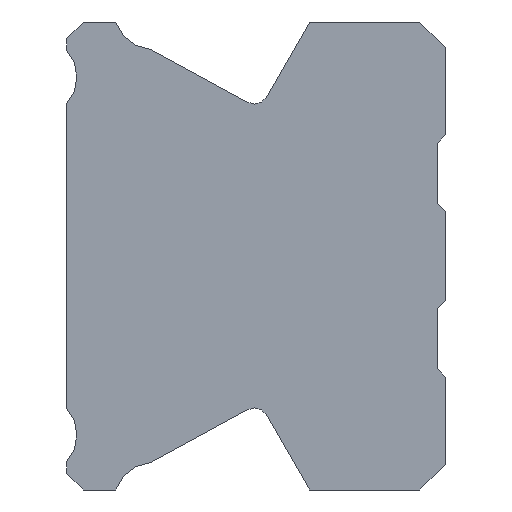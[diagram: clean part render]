
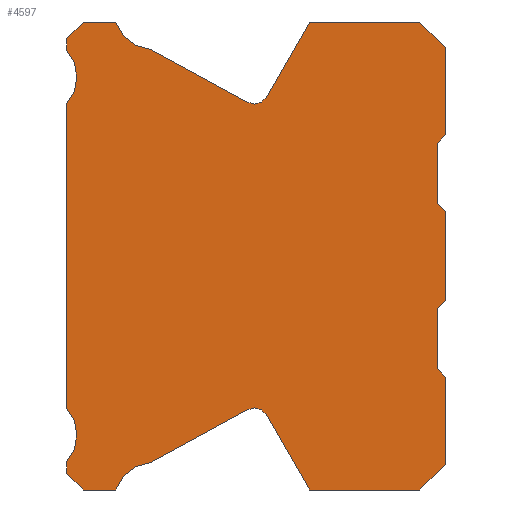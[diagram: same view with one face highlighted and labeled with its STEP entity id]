
A CAD part, left-side view. The second image highlights one B-rep face of the part: STEP entity #4597.
In plain terms, the highlighted planar face has unit normal (-1, 0, 0).
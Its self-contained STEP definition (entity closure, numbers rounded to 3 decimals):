
#177=CIRCLE('',#5070,2.89);
#179=CIRCLE('',#5074,1.);
#258=CIRCLE('',#5167,1.);
#260=CIRCLE('',#5171,2.89);
#262=CIRCLE('',#5177,2.89);
#302=CIRCLE('',#5219,2.89);
#535=LINE('',#7829,#765);
#537=LINE('',#7835,#767);
#539=LINE('',#7841,#769);
#541=LINE('',#7845,#771);
#546=LINE('',#7860,#776);
#550=LINE('',#7872,#780);
#553=LINE('',#7878,#783);
#556=LINE('',#7884,#786);
#559=LINE('',#7890,#789);
#562=LINE('',#7896,#792);
#566=LINE('',#7940,#796);
#568=LINE('',#7948,#798);
#571=LINE('',#7990,#801);
#574=LINE('',#7996,#804);
#577=LINE('',#8002,#807);
#580=LINE('',#8008,#810);
#583=LINE('',#8014,#813);
#587=LINE('',#8026,#817);
#591=LINE('',#8038,#821);
#594=LINE('',#8044,#824);
#597=LINE('',#8050,#827);
#601=LINE('',#8138,#831);
#605=LINE('',#8150,#835);
#608=LINE('',#8156,#838);
#765=VECTOR('',#6250,1000.);
#767=VECTOR('',#6256,1000.);
#769=VECTOR('',#6262,1000.);
#771=VECTOR('',#6266,1000.);
#776=VECTOR('',#6279,1000.);
#780=VECTOR('',#6291,1000.);
#783=VECTOR('',#6296,1000.);
#786=VECTOR('',#6301,1000.);
#789=VECTOR('',#6306,1000.);
#792=VECTOR('',#6311,1000.);
#796=VECTOR('',#6391,1000.);
#798=VECTOR('',#6405,1000.);
#801=VECTOR('',#6482,1000.);
#804=VECTOR('',#6487,1000.);
#807=VECTOR('',#6492,1000.);
#810=VECTOR('',#6497,1000.);
#813=VECTOR('',#6502,1000.);
#817=VECTOR('',#6514,1000.);
#821=VECTOR('',#6526,1000.);
#824=VECTOR('',#6531,1000.);
#827=VECTOR('',#6536,1000.);
#831=VECTOR('',#6624,1000.);
#835=VECTOR('',#6636,1000.);
#838=VECTOR('',#6641,1000.);
#1636=ORIENTED_EDGE('',*,*,#2548,.F.);
#1637=ORIENTED_EDGE('',*,*,#2742,.F.);
#1638=ORIENTED_EDGE('',*,*,#2739,.F.);
#1639=ORIENTED_EDGE('',*,*,#2736,.T.);
#1640=ORIENTED_EDGE('',*,*,#2733,.F.);
#1641=ORIENTED_EDGE('',*,*,#2692,.T.);
#1642=ORIENTED_EDGE('',*,*,#2689,.F.);
#1643=ORIENTED_EDGE('',*,*,#2686,.F.);
#1644=ORIENTED_EDGE('',*,*,#2683,.F.);
#1645=ORIENTED_EDGE('',*,*,#2680,.T.);
#1646=ORIENTED_EDGE('',*,*,#2677,.F.);
#1647=ORIENTED_EDGE('',*,*,#2674,.T.);
#1648=ORIENTED_EDGE('',*,*,#2671,.F.);
#1649=ORIENTED_EDGE('',*,*,#2668,.F.);
#1650=ORIENTED_EDGE('',*,*,#2665,.F.);
#1651=ORIENTED_EDGE('',*,*,#2662,.F.);
#1652=ORIENTED_EDGE('',*,*,#2659,.F.);
#1653=ORIENTED_EDGE('',*,*,#2620,.F.);
#1654=ORIENTED_EDGE('',*,*,#2546,.F.);
#1655=ORIENTED_EDGE('',*,*,#2543,.F.);
#1656=ORIENTED_EDGE('',*,*,#2540,.F.);
#1657=ORIENTED_EDGE('',*,*,#2614,.F.);
#1658=ORIENTED_EDGE('',*,*,#2573,.F.);
#1659=ORIENTED_EDGE('',*,*,#2570,.F.);
#1660=ORIENTED_EDGE('',*,*,#2567,.F.);
#1661=ORIENTED_EDGE('',*,*,#2564,.F.);
#1662=ORIENTED_EDGE('',*,*,#2561,.F.);
#1663=ORIENTED_EDGE('',*,*,#2558,.T.);
#1664=ORIENTED_EDGE('',*,*,#2555,.F.);
#1665=ORIENTED_EDGE('',*,*,#2552,.T.);
#2540=EDGE_CURVE('',#3126,#3127,#535,.T.);
#2543=EDGE_CURVE('',#3127,#3129,#537,.T.);
#2546=EDGE_CURVE('',#3129,#3131,#539,.T.);
#2548=EDGE_CURVE('',#3132,#3133,#541,.T.);
#2552=EDGE_CURVE('',#3136,#3133,#177,.T.);
#2555=EDGE_CURVE('',#3136,#3138,#546,.T.);
#2558=EDGE_CURVE('',#3140,#3138,#179,.T.);
#2561=EDGE_CURVE('',#3140,#3142,#550,.T.);
#2564=EDGE_CURVE('',#3142,#3144,#553,.T.);
#2567=EDGE_CURVE('',#3144,#3146,#556,.T.);
#2570=EDGE_CURVE('',#3146,#3148,#559,.T.);
#2573=EDGE_CURVE('',#3148,#3150,#562,.T.);
#2614=EDGE_CURVE('',#3150,#3126,#566,.T.);
#2620=EDGE_CURVE('',#3131,#3152,#568,.T.);
#2659=EDGE_CURVE('',#3152,#3154,#571,.T.);
#2662=EDGE_CURVE('',#3154,#3156,#574,.T.);
#2665=EDGE_CURVE('',#3156,#3158,#577,.T.);
#2668=EDGE_CURVE('',#3158,#3160,#580,.T.);
#2671=EDGE_CURVE('',#3160,#3162,#583,.T.);
#2674=EDGE_CURVE('',#3164,#3162,#258,.T.);
#2677=EDGE_CURVE('',#3164,#3166,#587,.T.);
#2680=EDGE_CURVE('',#3168,#3166,#260,.T.);
#2683=EDGE_CURVE('',#3168,#3170,#591,.T.);
#2686=EDGE_CURVE('',#3170,#3172,#594,.T.);
#2689=EDGE_CURVE('',#3172,#3174,#597,.T.);
#2692=EDGE_CURVE('',#3176,#3174,#262,.T.);
#2733=EDGE_CURVE('',#3176,#3216,#601,.T.);
#2736=EDGE_CURVE('',#3218,#3216,#302,.T.);
#2739=EDGE_CURVE('',#3218,#3220,#605,.T.);
#2742=EDGE_CURVE('',#3220,#3132,#608,.T.);
#3126=VERTEX_POINT('',#7828);
#3127=VERTEX_POINT('',#7830);
#3129=VERTEX_POINT('',#7836);
#3131=VERTEX_POINT('',#7842);
#3132=VERTEX_POINT('',#7846);
#3133=VERTEX_POINT('',#7847);
#3136=VERTEX_POINT('',#7855);
#3138=VERTEX_POINT('',#7861);
#3140=VERTEX_POINT('',#7867);
#3142=VERTEX_POINT('',#7873);
#3144=VERTEX_POINT('',#7879);
#3146=VERTEX_POINT('',#7885);
#3148=VERTEX_POINT('',#7891);
#3150=VERTEX_POINT('',#7897);
#3152=VERTEX_POINT('',#7949);
#3154=VERTEX_POINT('',#7991);
#3156=VERTEX_POINT('',#7997);
#3158=VERTEX_POINT('',#8003);
#3160=VERTEX_POINT('',#8009);
#3162=VERTEX_POINT('',#8015);
#3164=VERTEX_POINT('',#8021);
#3166=VERTEX_POINT('',#8027);
#3168=VERTEX_POINT('',#8033);
#3170=VERTEX_POINT('',#8039);
#3172=VERTEX_POINT('',#8045);
#3174=VERTEX_POINT('',#8051);
#3176=VERTEX_POINT('',#8057);
#3216=VERTEX_POINT('',#8139);
#3218=VERTEX_POINT('',#8145);
#3220=VERTEX_POINT('',#8151);
#3633=EDGE_LOOP('',(#1636,#1637,#1638,#1639,#1640,#1641,#1642,#1643,#1644,
#1645,#1646,#1647,#1648,#1649,#1650,#1651,#1652,#1653,#1654,#1655,#1656,
#1657,#1658,#1659,#1660,#1661,#1662,#1663,#1664,#1665));
#4045=FACE_BOUND('',#3633,.T.);
#4413=PLANE('',#5224);
#4597=ADVANCED_FACE('',(#4045),#4413,.F.);
#5070=AXIS2_PLACEMENT_3D('',#7854,#6272,#6273);
#5074=AXIS2_PLACEMENT_3D('',#7866,#6284,#6285);
#5167=AXIS2_PLACEMENT_3D('',#8020,#6507,#6508);
#5171=AXIS2_PLACEMENT_3D('',#8032,#6519,#6520);
#5177=AXIS2_PLACEMENT_3D('',#8056,#6541,#6542);
#5219=AXIS2_PLACEMENT_3D('',#8144,#6629,#6630);
#5224=AXIS2_PLACEMENT_3D('',#8159,#6645,#6646);
#6250=DIRECTION('',(0.,-0.707,-0.707));
#6256=DIRECTION('',(0.,0.,-1.));
#6262=DIRECTION('',(0.,0.707,-0.707));
#6266=DIRECTION('',(0.,-1.,0.));
#6272=DIRECTION('',(1.,0.,0.));
#6273=DIRECTION('',(0.,0.,-1.));
#6279=DIRECTION('',(0.,-0.878,-0.48));
#6284=DIRECTION('',(1.,0.,0.));
#6285=DIRECTION('',(0.,0.,-1.));
#6291=DIRECTION('',(0.,-0.5,0.866));
#6296=DIRECTION('',(0.,-1.,0.));
#6301=DIRECTION('',(0.,-0.707,-0.707));
#6306=DIRECTION('',(0.,0.,-1.));
#6311=DIRECTION('',(0.,0.707,-0.707));
#6391=DIRECTION('',(0.,0.,-1.));
#6405=DIRECTION('',(0.,0.,-1.));
#6482=DIRECTION('',(0.,-0.707,-0.707));
#6487=DIRECTION('',(0.,0.,-1.));
#6492=DIRECTION('',(0.,0.707,-0.707));
#6497=DIRECTION('',(0.,1.,0.));
#6502=DIRECTION('',(0.,0.5,0.866));
#6507=DIRECTION('',(1.,0.,0.));
#6508=DIRECTION('',(0.,0.,-1.));
#6514=DIRECTION('',(0.,0.878,-0.48));
#6519=DIRECTION('',(1.,0.,0.));
#6520=DIRECTION('',(0.,0.,-1.));
#6526=DIRECTION('',(0.,1.,0.));
#6531=DIRECTION('',(0.,0.707,0.707));
#6536=DIRECTION('',(0.,0.,1.));
#6541=DIRECTION('',(1.,0.,0.));
#6542=DIRECTION('',(0.,0.,-1.));
#6624=DIRECTION('',(0.,0.,1.));
#6629=DIRECTION('',(1.,0.,0.));
#6630=DIRECTION('',(0.,0.,-1.));
#6636=DIRECTION('',(0.,0.,1.));
#6641=DIRECTION('',(0.,-0.707,0.707));
#6645=DIRECTION('',(1.,0.,0.));
#6646=DIRECTION('',(0.,0.,-1.));
#7828=CARTESIAN_POINT('',(-20.,0.6,3.8));
#7829=CARTESIAN_POINT('',(-20.,0.6,3.8));
#7830=CARTESIAN_POINT('',(-20.,0.,3.2));
#7835=CARTESIAN_POINT('',(-20.,0.,3.2));
#7836=CARTESIAN_POINT('',(-20.,0.,-3.2));
#7841=CARTESIAN_POINT('',(-20.,0.,-3.2));
#7842=CARTESIAN_POINT('',(-20.,0.6,-3.8));
#7845=CARTESIAN_POINT('',(-20.,26.3,17.));
#7846=CARTESIAN_POINT('',(-20.,26.3,17.));
#7847=CARTESIAN_POINT('',(-20.,23.941,17.));
#7854=CARTESIAN_POINT('',(-20.,21.192,17.893));
#7855=CARTESIAN_POINT('',(-20.,21.393,15.01));
#7860=CARTESIAN_POINT('',(-20.,21.393,15.01));
#7861=CARTESIAN_POINT('',(-20.,14.346,11.158));
#7866=CARTESIAN_POINT('',(-20.,13.866,12.036));
#7867=CARTESIAN_POINT('',(-20.,13.,11.536));
#7872=CARTESIAN_POINT('',(-20.,13.,11.536));
#7873=CARTESIAN_POINT('',(-20.,9.847,17.));
#7878=CARTESIAN_POINT('',(-20.,9.847,17.));
#7879=CARTESIAN_POINT('',(-20.,1.85,17.));
#7884=CARTESIAN_POINT('',(-20.,1.85,17.));
#7885=CARTESIAN_POINT('',(-20.,0.,15.15));
#7890=CARTESIAN_POINT('',(-20.,0.,15.15));
#7891=CARTESIAN_POINT('',(-20.,0.,8.8));
#7896=CARTESIAN_POINT('',(-20.,0.,8.8));
#7897=CARTESIAN_POINT('',(-20.,0.6,8.2));
#7940=CARTESIAN_POINT('',(-20.,0.6,8.2));
#7948=CARTESIAN_POINT('',(-20.,0.6,-3.8));
#7949=CARTESIAN_POINT('',(-20.,0.6,-8.2));
#7990=CARTESIAN_POINT('',(-20.,0.6,-8.2));
#7991=CARTESIAN_POINT('',(-20.,0.,-8.8));
#7996=CARTESIAN_POINT('',(-20.,0.,-8.8));
#7997=CARTESIAN_POINT('',(-20.,0.,-15.15));
#8002=CARTESIAN_POINT('',(-20.,0.,-15.15));
#8003=CARTESIAN_POINT('',(-20.,1.85,-17.));
#8008=CARTESIAN_POINT('',(-20.,1.85,-17.));
#8009=CARTESIAN_POINT('',(-20.,9.847,-17.));
#8014=CARTESIAN_POINT('',(-20.,9.847,-17.));
#8015=CARTESIAN_POINT('',(-20.,13.,-11.536));
#8020=CARTESIAN_POINT('',(-20.,13.866,-12.036));
#8021=CARTESIAN_POINT('',(-20.,14.346,-11.158));
#8026=CARTESIAN_POINT('',(-20.,14.346,-11.158));
#8027=CARTESIAN_POINT('',(-20.,21.393,-15.01));
#8032=CARTESIAN_POINT('',(-20.,21.192,-17.893));
#8033=CARTESIAN_POINT('',(-20.,23.941,-17.));
#8038=CARTESIAN_POINT('',(-20.,23.941,-17.));
#8039=CARTESIAN_POINT('',(-20.,26.3,-17.));
#8044=CARTESIAN_POINT('',(-20.,26.3,-17.));
#8045=CARTESIAN_POINT('',(-20.,27.5,-15.8));
#8050=CARTESIAN_POINT('',(-20.,27.5,-15.8));
#8051=CARTESIAN_POINT('',(-20.,27.5,-14.932));
#8056=CARTESIAN_POINT('',(-20.,29.649,-13.));
#8057=CARTESIAN_POINT('',(-20.,27.5,-11.068));
#8138=CARTESIAN_POINT('',(-20.,27.5,-11.068));
#8139=CARTESIAN_POINT('',(-20.,27.5,11.068));
#8144=CARTESIAN_POINT('',(-20.,29.649,13.));
#8145=CARTESIAN_POINT('',(-20.,27.5,14.932));
#8150=CARTESIAN_POINT('',(-20.,27.5,14.932));
#8151=CARTESIAN_POINT('',(-20.,27.5,15.8));
#8156=CARTESIAN_POINT('',(-20.,27.5,15.8));
#8159=CARTESIAN_POINT('',(-20.,21.192,17.893));
